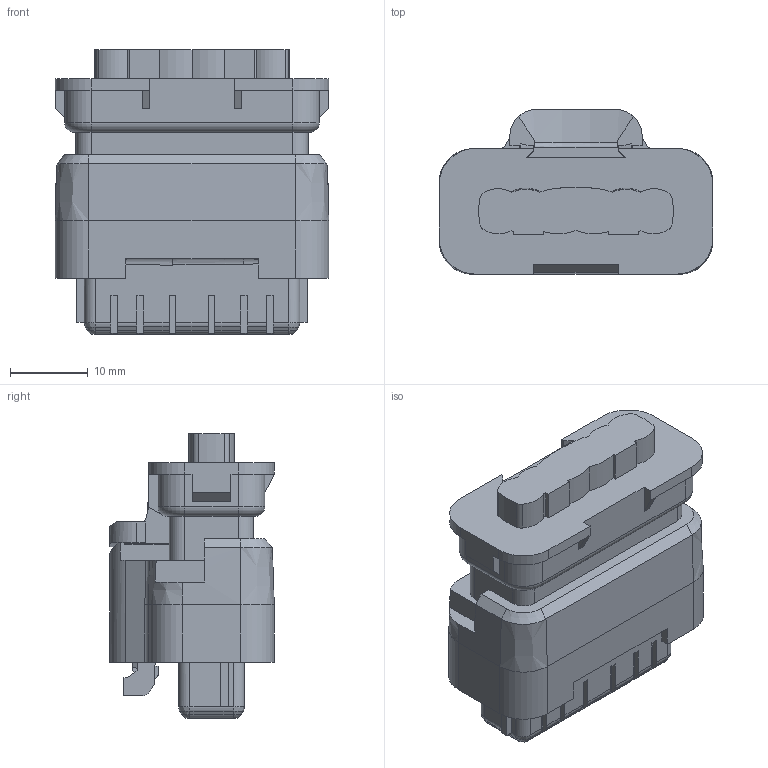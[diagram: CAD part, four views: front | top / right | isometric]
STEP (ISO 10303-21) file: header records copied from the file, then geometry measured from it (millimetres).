
FILE_DESCRIPTION(/* description */ (''),/* implementation_level */ '2;1');
FILE_NAME(/* name */ '33511993-ENV10_01-CONN.stp',/* time_stamp */ '2020-02-21T18:16:48+06:00',/* author */ (''),/* organization */ (''),/* preprocessor_version */ 'ST-DEVELOPER v16',/* originating_system */ 'SIEMENS PLM Software NX 11.0',/* authorisation */ '');
FILE_SCHEMA (('AP203_CONFIGURATION_CONTROLLED_3D_DESIGN_OF_MECHANICAL_PARTS_AND_ASSEMBLIES_MIM_LF { 1 0 10303 403 2 1 2}'));
Length unit declared in the file: millimetre
Products named in the file (1): hjcv7050C10C1vet
Bounding box: 35.1 x 21.1 x 36.55 mm (x, y, z)
Volume: 13487.1 mm3; surface area: 8093.4 mm2
Topology: 1 solids, 1 shells, 582 faces, 1709 edges, 1109 vertices
Faces by surface type: plane 403, cylinder 122, bspline 28, cone 24, torus 5
Entity records: 21218 total; most frequent: CARTESIAN_POINT 5707, ORIENTED_EDGE 3410, DIRECTION 3035, EDGE_CURVE 1705, LINE 1225, VECTOR 1225, VERTEX_POINT 1109, AXIS2_PLACEMENT_3D 905
